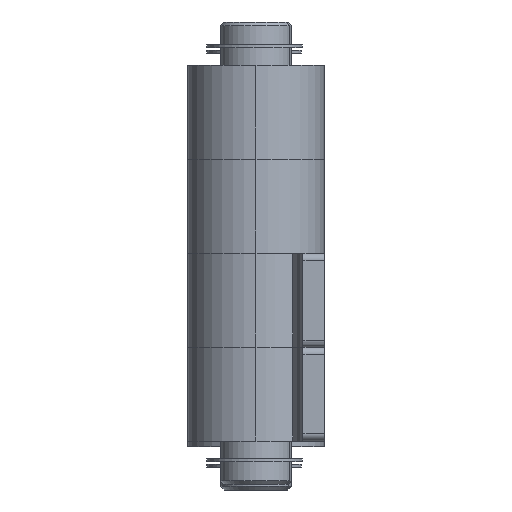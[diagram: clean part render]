
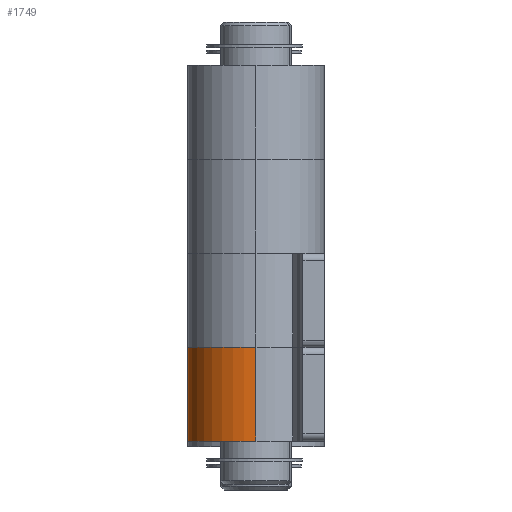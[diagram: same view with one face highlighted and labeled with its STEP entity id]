
A CAD part, left-side view. The second image highlights one B-rep face of the part: STEP entity #1749.
In plain terms, the highlighted cylindrical face has radius 4.8 mm (diameter 9.6 mm), a partial arc.
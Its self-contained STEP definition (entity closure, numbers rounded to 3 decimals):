
#4 = DIRECTION ( 'NONE',  ( 0., 0., -1. ) ) ;
#76 = CARTESIAN_POINT ( 'NONE',  ( -4.8, 0., -3.3 ) ) ;
#91 = ORIENTED_EDGE ( 'NONE', *, *, #535, .T. ) ;
#163 = CARTESIAN_POINT ( 'NONE',  ( 4.8, 0., -3.3 ) ) ;
#217 = DIRECTION ( 'NONE',  ( 0., 0., -1. ) ) ;
#322 = CYLINDRICAL_SURFACE ( 'NONE', #1073, 4.8 ) ;
#351 = VECTOR ( 'NONE', #1263, 1000. ) ;
#422 = EDGE_CURVE ( 'NONE', #1164, #1089, #676, .T. ) ;
#424 = LINE ( 'NONE', #1450, #1781 ) ;
#532 = ORIENTED_EDGE ( 'NONE', *, *, #2046, .F. ) ;
#535 = EDGE_CURVE ( 'NONE', #1574, #753, #925, .T. ) ;
#588 = CARTESIAN_POINT ( 'NONE',  ( 4.8, 0., 0. ) ) ;
#631 = EDGE_CURVE ( 'NONE', #753, #1089, #1465, .T. ) ;
#637 = DIRECTION ( 'NONE',  ( -1., 0., 0. ) ) ;
#676 = CIRCLE ( 'NONE', #1919, 4.8 ) ;
#736 = DIRECTION ( 'NONE',  ( -0.593, -0.805, 0. ) ) ;
#753 = VERTEX_POINT ( 'NONE', #1242 ) ;
#925 = CIRCLE ( 'NONE', #1429, 4.8 ) ;
#1003 = CARTESIAN_POINT ( 'NONE',  ( 0., 0., 0. ) ) ;
#1057 = CARTESIAN_POINT ( 'NONE',  ( 0., 0., -3.3 ) ) ;
#1073 = AXIS2_PLACEMENT_3D ( 'NONE', #1003, #4, #637 ) ;
#1089 = VERTEX_POINT ( 'NONE', #163 ) ;
#1164 = VERTEX_POINT ( 'NONE', #76 ) ;
#1174 = FACE_OUTER_BOUND ( 'NONE', #1402, .T. ) ;
#1242 = CARTESIAN_POINT ( 'NONE',  ( 4.8, 0., 3.3 ) ) ;
#1263 = DIRECTION ( 'NONE',  ( 0., 0., -1. ) ) ;
#1402 = EDGE_LOOP ( 'NONE', ( #91, #1438, #1964, #532 ) ) ;
#1429 = AXIS2_PLACEMENT_3D ( 'NONE', #1795, #1944, #2097 ) ;
#1438 = ORIENTED_EDGE ( 'NONE', *, *, #631, .T. ) ;
#1450 = CARTESIAN_POINT ( 'NONE',  ( -4.8, 0., 0. ) ) ;
#1465 = LINE ( 'NONE', #588, #351 ) ;
#1574 = VERTEX_POINT ( 'NONE', #1969 ) ;
#1749 = ADVANCED_FACE ( 'NONE', ( #1174 ), #322, .T. ) ;
#1781 = VECTOR ( 'NONE', #2137, 1000. ) ;
#1795 = CARTESIAN_POINT ( 'NONE',  ( 0., 0., 3.3 ) ) ;
#1919 = AXIS2_PLACEMENT_3D ( 'NONE', #1057, #217, #736 ) ;
#1944 = DIRECTION ( 'NONE',  ( 0., 0., -1. ) ) ;
#1964 = ORIENTED_EDGE ( 'NONE', *, *, #422, .F. ) ;
#1969 = CARTESIAN_POINT ( 'NONE',  ( -4.8, 0., 3.3 ) ) ;
#2046 = EDGE_CURVE ( 'NONE', #1574, #1164, #424, .T. ) ;
#2097 = DIRECTION ( 'NONE',  ( -0.593, -0.805, 0. ) ) ;
#2137 = DIRECTION ( 'NONE',  ( 0., 0., -1. ) ) ;
